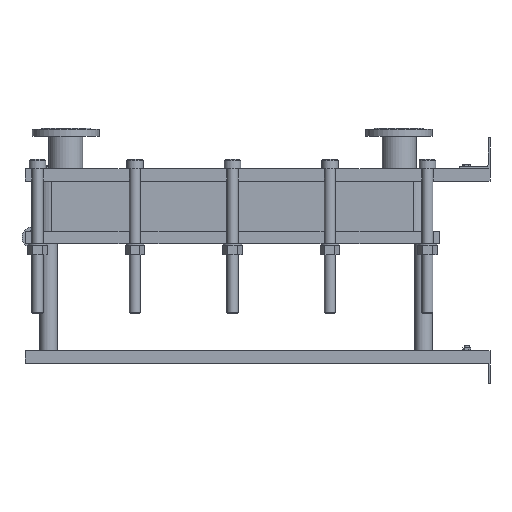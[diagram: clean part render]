
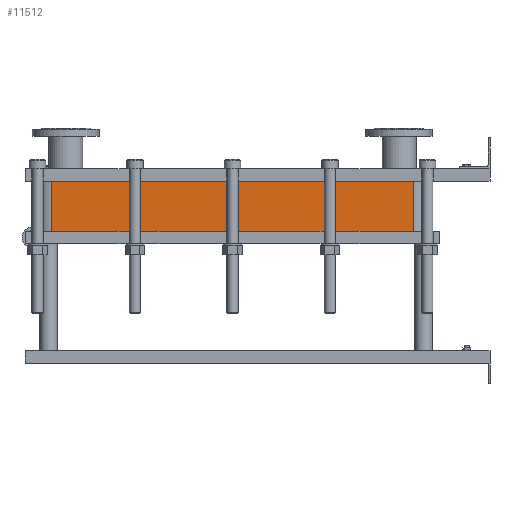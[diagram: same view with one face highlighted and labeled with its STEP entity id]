
A CAD part, left-side view. The second image highlights one B-rep face of the part: STEP entity #11512.
In plain terms, the highlighted planar face has unit normal (-1, 0, 0).
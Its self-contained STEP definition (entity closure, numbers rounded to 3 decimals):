
#1129=LINE('',#23232,#2102);
#1130=LINE('',#23236,#2103);
#1131=LINE('',#23238,#2104);
#1132=LINE('',#23239,#2105);
#2102=VECTOR('',#15887,10.);
#2103=VECTOR('',#15892,10.);
#2104=VECTOR('',#15893,10.);
#2105=VECTOR('',#15894,10.);
#3267=FACE_OUTER_BOUND('',#4093,.T.);
#4093=EDGE_LOOP('',(#10103,#10104,#10105,#10106));
#5642=VERTEX_POINT('',#23229);
#5643=VERTEX_POINT('',#23231);
#5644=VERTEX_POINT('',#23235);
#5645=VERTEX_POINT('',#23237);
#7159=EDGE_CURVE('',#5643,#5642,#1129,.T.);
#7161=EDGE_CURVE('',#5642,#5644,#1130,.T.);
#7162=EDGE_CURVE('',#5645,#5644,#1131,.T.);
#7163=EDGE_CURVE('',#5645,#5643,#1132,.T.);
#10103=ORIENTED_EDGE('',*,*,#7161,.T.);
#10104=ORIENTED_EDGE('',*,*,#7162,.F.);
#10105=ORIENTED_EDGE('',*,*,#7163,.T.);
#10106=ORIENTED_EDGE('',*,*,#7159,.T.);
#10857=PLANE('',#12751);
#11512=ADVANCED_FACE('',(#3267),#10857,.T.);
#12751=AXIS2_PLACEMENT_3D('',#23234,#15890,#15891);
#15887=DIRECTION('',(0.,0.,-1.));
#15890=DIRECTION('center_axis',(-1.,0.,0.));
#15891=DIRECTION('ref_axis',(0.,1.,0.));
#15892=DIRECTION('',(0.,-1.,0.));
#15893=DIRECTION('',(0.,0.,-1.));
#15894=DIRECTION('',(0.,1.,0.));
#23229=CARTESIAN_POINT('',(-200.,1414.,-162.15));
#23231=CARTESIAN_POINT('',(-200.,1414.,0.));
#23232=CARTESIAN_POINT('',(-200.,1414.,0.));
#23234=CARTESIAN_POINT('Origin',(-200.,248.,0.));
#23235=CARTESIAN_POINT('',(-200.,248.,-162.15));
#23236=CARTESIAN_POINT('',(-200.,539.5,-162.15));
#23237=CARTESIAN_POINT('',(-200.,248.,0.));
#23238=CARTESIAN_POINT('',(-200.,248.,0.));
#23239=CARTESIAN_POINT('',(-200.,248.,0.));
